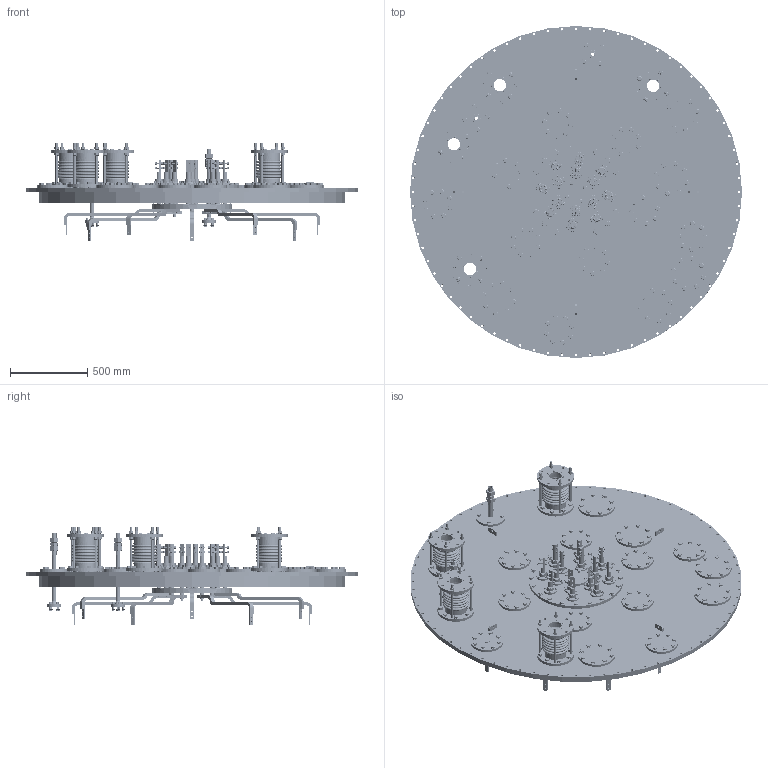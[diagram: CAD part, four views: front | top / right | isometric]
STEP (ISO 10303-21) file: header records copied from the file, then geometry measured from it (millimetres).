
FILE_DESCRIPTION(('CATIA V5 STEP Exchange'),'2;1');
FILE_NAME('V:\enea.it\fra\user\micozzi\CATIA\LoadAssembly_ASG\Modelli_Montati_1-12-08\FLANGIA_INFERIORE_Completa.stp','2010-10-27T13:34:57+00:00',('none'),('none'),'CATIA Version 5 Release 19 SP 2 (IN-10)','CATIA V5 STEP AP203','none');
FILE_SCHEMA(('CONFIG_CONTROL_DESIGN'));
Length unit declared in the file: millimetre
Products named in the file (41): asm flangia inferiore cdv; asm flangia passanti inferiori; asm passante elettrico basso; vite M8 + rondella; bullone M8; vite M12 lunga + rondella; vite M16 + rondella; Raccolto vite M16 + rondella di Matrice circolare.1; vite M12 + rondella; Raccolto vite M12 + rondella di Matrice circolare.1; asm passante elettrico; vite M8 + rondella_1; bullone M8_1; Raccolto asm passante elettrico di Matrice circolare.6; Raccolto asm passante elettrico basso di Matrice circolare.2; asm flangia cieca DN100; vite M16 + rondella_1; Raccolto vite M16 + rondella di Matrice circolare.1_1; Raccolto asm flangia cieca DN100 di Matrice circolare.2; asm flangia cieca DN125; Product1; Raccolto Product1 di Matrice circolare.1; soffietto DN125; vite M16+rondella; Raccolto vite M16+rondella di Matrice circolare.1; puntone; asm vite isolata bobina; Raccolto asm vite isolata bobina di Matrice circolare.2; passante fluidi; vite su flangia DN80; bullone su flangia DN20; Raccolto bullone su flangia DN20 di Matrice circolare.1; Raccolto vite su flangia DN80 di Matrice circolare.1; Raccolto ISO 4026 SCREW M5x16 GRADE A STEEL HEX SOCKET SET WITH FLAT POINT di Matrice circolare.51; bullone M6; Raccolto bullone M6 di Matrice circolare.22; Raccolto bullone M6 di Matrice circolare.23; Raccolto conduttore inferiore catodo di Matrice circolare.2; flangia cieca DN100 con passante; Raccolto vite M16 + rondella di Matrice circolare.11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
Assembly tree (239 placements, depth 6):
  asm flangia inferiore cdv
    #58
    asm flangia passanti inferiori
      #41100
      asm passante elettrico basso
        #51065
        #52575
        vite M8 + rondella  x4
          #53733
          #54611
        bullone M8  x2
          #54611
          #54924
          #55508
        #56084
        vite M12 lunga + rondella
          #56428
          #56645
      vite M16 + rondella
        #57593
        #57810
      Raccolto vite M16 + rondella di Matrice circolare.1
        vite M16 + rondella  x19
          #57593
          #57810
      #58658
      vite M12 + rondella
        #56428
        #59546
      Raccolto vite M12 + rondella di Matrice circolare.1
        vite M12 + rondella  x3
          #56428
          #59546
      asm passante elettrico
        #51065
        #60234
        vite M8 + rondella_1  x4
          #53733
          #54611
        #61283
        bullone M8_1  x2
          #54611
          #54924
          #55508
        #56084
      Raccolto asm passante elettrico di Matrice circolare.6
        asm passante elettrico  x7
          #51065
          #60234
          vite M8 + rondella_1
            #53733
            #54611
          #61283
          bullone M8_1
            #54611  x2
            #54924
            #55508
          #56084
      Raccolto asm passante elettrico basso di Matrice circolare.2
        asm passante elettrico basso  x5
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Bounding box: 2152 x 2152 x 632.59 mm (x, y, z)
Volume: 154683243.3 mm3; surface area: 18046010 mm2
Topology: 971 solids, 971 shells, 18337 faces, 41158 edges, 25408 vertices
Faces by surface type: cylinder 6374, plane 5661, cone 4818, torus 1484
Entity records: 94719 total; most frequent: CARTESIAN_POINT 18770, ORIENTED_EDGE 15782, DIRECTION 12692, EDGE_CURVE 7891, AXIS2_PLACEMENT_3D 6645, VERTEX_POINT 4791, EDGE_LOOP 4510, CIRCLE 4065
